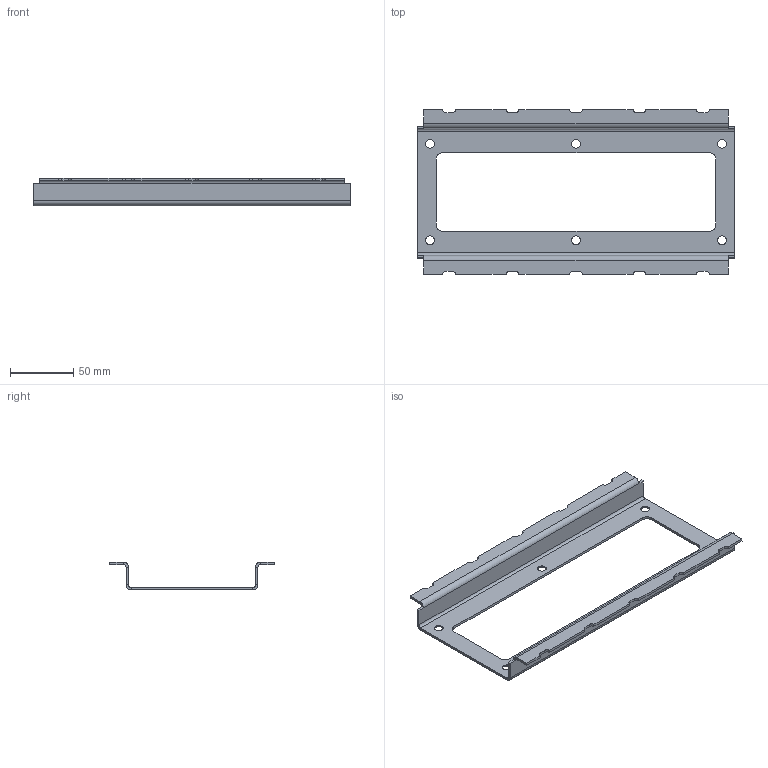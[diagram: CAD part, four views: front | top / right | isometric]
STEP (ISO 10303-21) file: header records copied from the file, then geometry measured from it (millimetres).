
FILE_DESCRIPTION (( 'STEP AP203' ), '1' );
FILE_NAME ('ORW-72.24.10.013 眈翴錪.STEP', '2025-10-13T13:18:07', ( '燴僽樥' ), ( '' ), 'SwSTEP 2.0', 'SolidWorks 2025', '' );
FILE_SCHEMA (( 'CONFIG_CONTROL_DESIGN' ));
Length unit declared in the file: millimetre
Products named in the file (1): ORW-72.24.10.013 Панель
Bounding box: 250 x 130 x 22 mm (x, y, z)
Volume: 53585.2 mm3; surface area: 56680.2 mm2
Topology: 1 solids, 1 shells, 100 faces, 266 edges, 168 vertices
Faces by surface type: plane 56, cylinder 38, cone 6
Full cylindrical faces by diameter (mm): 6.9 x6
Entity records: 3077 total; most frequent: DIRECTION 532, CARTESIAN_POINT 511, ORIENTED_EDGE 496, EDGE_CURVE 248, AXIS2_PLACEMENT_3D 183, LINE 166, VECTOR 166, VERTEX_POINT 162
